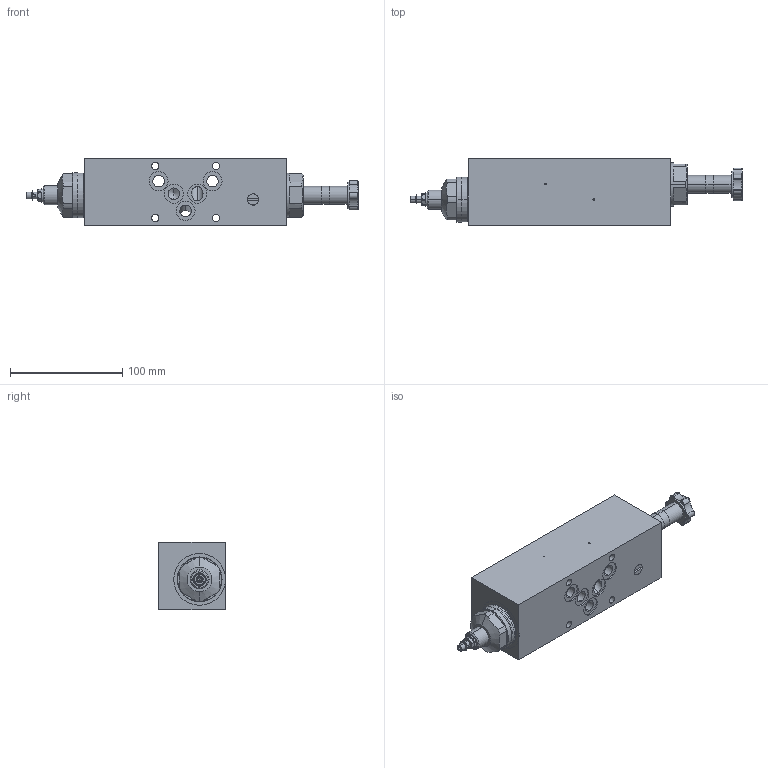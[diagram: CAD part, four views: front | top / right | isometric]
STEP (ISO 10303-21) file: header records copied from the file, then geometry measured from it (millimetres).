
FILE_DESCRIPTION (( 'STEP AP214' ), '1' );
FILE_NAME ('VQSSA10-A.STEP', '2017-04-06T10:56:59', ( '' ), ( '' ), 'SwSTEP 2.0', 'SolidWorks 2016', '' );
FILE_SCHEMA (( 'AUTOMOTIVE_DESIGN' ));
Length unit declared in the file: millimetre
Products named in the file (1): VQSSA10-A
Bounding box: 295.4 x 59.5 x 60 mm (x, y, z)
Volume: 666572.8 mm3; surface area: 77735.1 mm2
Topology: 5 solids, 5 shells, 370 faces, 889 edges, 541 vertices
Faces by surface type: cylinder 161, plane 102, cone 78, torus 29
Entity records: 15329 total; most frequent: CARTESIAN_POINT 2501, DIRECTION 1965, ORIENTED_EDGE 1734, EDGE_CURVE 867, AXIS2_PLACEMENT_3D 817, VERTEX_POINT 541, CIRCLE 446, EDGE_LOOP 424
